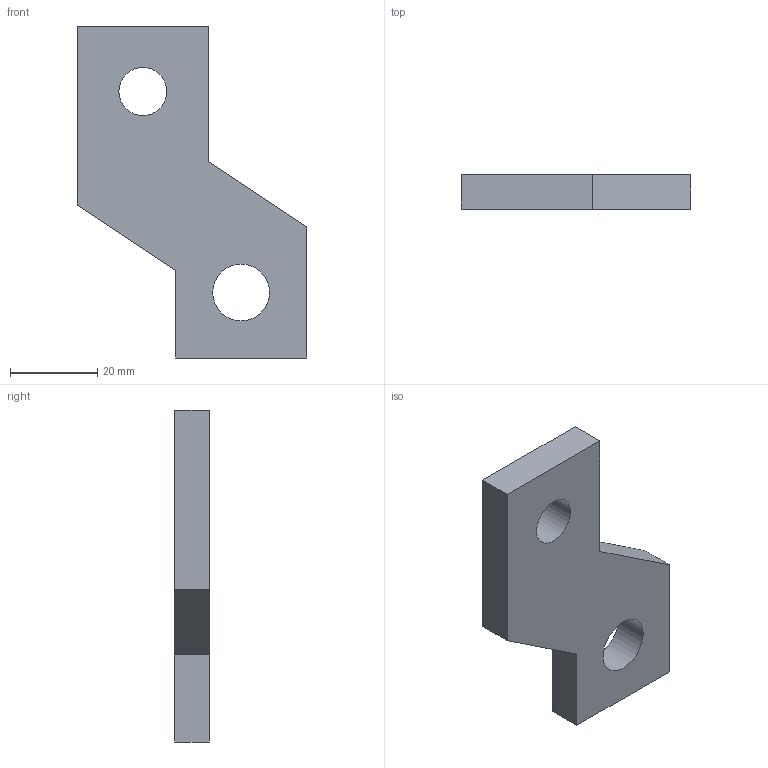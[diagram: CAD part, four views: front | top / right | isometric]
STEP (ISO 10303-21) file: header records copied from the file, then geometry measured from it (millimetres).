
FILE_DESCRIPTION((''),'2;1');
FILE_NAME('U6_E2_4P_BUSBAR','2016-12-07T',('HHI'),(''),'PRO/ENGINEER BY PARAMETRIC TECHNOLOGY CORPORATION, 2012453','PRO/ENGINEER BY PARAMETRIC TECHNOLOGY CORPORATION, 2012453','');
FILE_SCHEMA(('CONFIG_CONTROL_DESIGN'));
Length unit declared in the file: millimetre
Products named in the file (1): U6_E2_4P_BUSBAR
Bounding box: 52.5 x 8 x 76 mm (x, y, z)
Volume: 18217.9 mm3; surface area: 7046.3 mm2
Topology: 1 solids, 1 shells, 14 faces, 36 edges, 24 vertices
Faces by surface type: plane 10, cylinder 4
Entity records: 474 total; most frequent: CARTESIAN_POINT 74, DIRECTION 72, ORIENTED_EDGE 72, EDGE_CURVE 36, VECTOR 28, LINE 28, VERTEX_POINT 24, AXIS2_PLACEMENT_3D 22
